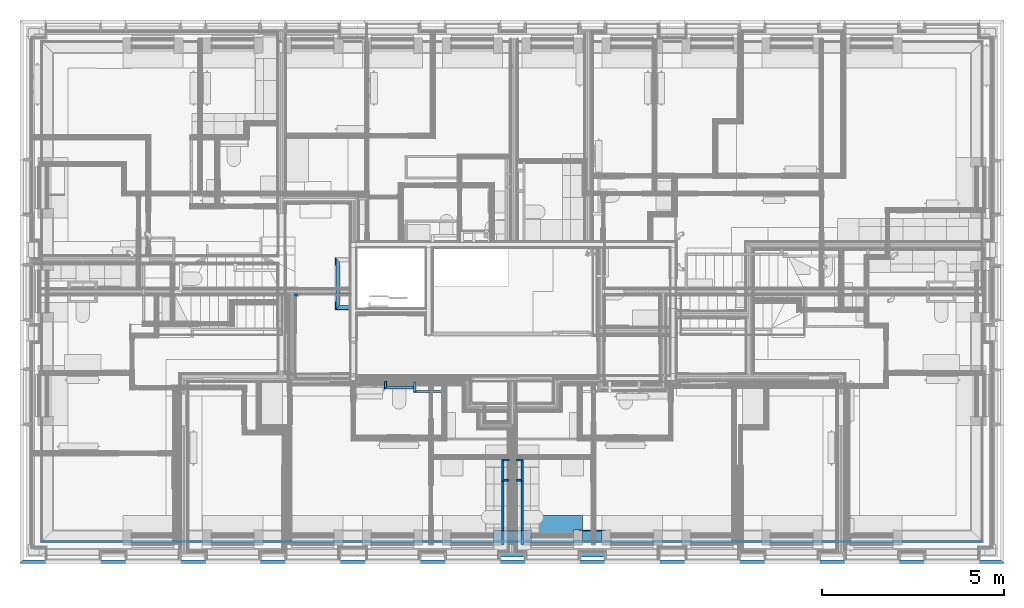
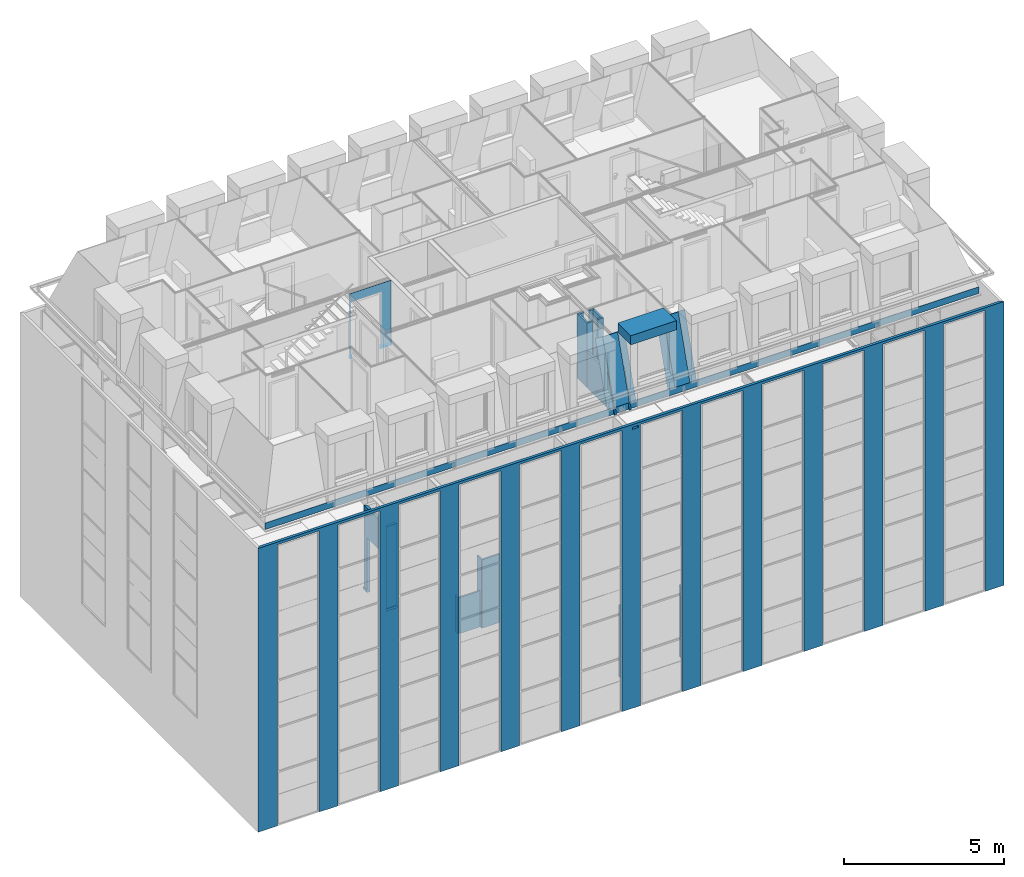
# One storey, part 2 of 169: 26 walls, 16 openings.
"""IFC2X3 building model written with IfcOpenShell, lengths in metres."""

from ifc_helpers import new_model, entity, si_unit, converted_unit, derived_unit, money_unit, direction, frame, frame_2d, origin_with_axes, place, context, subcontext, project, spatial, polyline, rectangle, outline, extrude, clip, halfspace, bounded_halfspace, material, layer, layer_set, layer_usage, type_object, element, save


model = new_model("IFC2X3")

# Units and contexts
model_context = context("Model", 3, precision=1e-05, world=origin_with_axes(), true_north=direction((0.0, 1.0)))
body_context = subcontext(model_context, "Body", "Model", "MODEL_VIEW", scale=1.0)
ifc_project = project(units=[si_unit("LENGTHUNIT", "METRE"), si_unit("AREAUNIT", "SQUARE_METRE"), si_unit("VOLUMEUNIT", "CUBIC_METRE"), si_unit("ABSORBEDDOSEUNIT", "GRAY"), si_unit("AMOUNTOFSUBSTANCEUNIT", "MOLE"), si_unit("DOSEEQUIVALENTUNIT", "SIEVERT"), si_unit("ELECTRICCAPACITANCEUNIT", "FARAD"), si_unit("ELECTRICCHARGEUNIT", "COULOMB"), si_unit("ELECTRICCONDUCTANCEUNIT", "SIEMENS"), si_unit("ELECTRICCURRENTUNIT", "AMPERE"), si_unit("ELECTRICRESISTANCEUNIT", "OHM"), si_unit("ELECTRICVOLTAGEUNIT", "VOLT"), si_unit("ENERGYUNIT", "JOULE"), si_unit("FORCEUNIT", "NEWTON"), si_unit("FREQUENCYUNIT", "HERTZ"), si_unit("ILLUMINANCEUNIT", "LUX"), si_unit("INDUCTANCEUNIT", "HENRY"), si_unit("LUMINOUSFLUXUNIT", "LUMEN"), si_unit("LUMINOUSINTENSITYUNIT", "CANDELA"), si_unit("MAGNETICFLUXDENSITYUNIT", "TESLA"), si_unit("MAGNETICFLUXUNIT", "WEBER"), si_unit("MASSUNIT", "GRAM"), converted_unit("PLANEANGLEUNIT", "degree", entity("IfcReal", 0.0174532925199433), si_unit("PLANEANGLEUNIT", "RADIAN"), dimensions=[0, 0, 0, 0, 0, 0, 0]), si_unit("POWERUNIT", "WATT"), si_unit("PRESSUREUNIT", "PASCAL"), si_unit("RADIOACTIVITYUNIT", "BECQUEREL"), si_unit("SOLIDANGLEUNIT", "STERADIAN"), si_unit("THERMODYNAMICTEMPERATUREUNIT", "KELVIN"), si_unit("TIMEUNIT", "SECOND"), derived_unit("ACCELERATIONUNIT", [(si_unit("LENGTHUNIT", "METRE"), 1), (si_unit("TIMEUNIT", "SECOND"), -2)]), derived_unit("ANGULARVELOCITYUNIT", [(converted_unit("PLANEANGLEUNIT", "degree", entity("IfcReal", 0.0174532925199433), si_unit("PLANEANGLEUNIT", "RADIAN"), dimensions=[0, 0, 0, 0, 0, 0, 0]), 1), (si_unit("TIMEUNIT", "SECOND"), -1)]), derived_unit("CURVATUREUNIT", [(converted_unit("PLANEANGLEUNIT", "degree", entity("IfcReal", 0.0174532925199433), si_unit("PLANEANGLEUNIT", "RADIAN"), dimensions=[0, 0, 0, 0, 0, 0, 0]), 1), (si_unit("LENGTHUNIT", "METRE"), -1)]), derived_unit("DYNAMICVISCOSITYUNIT", [(si_unit("PRESSUREUNIT", "PASCAL"), 1), (si_unit("TIMEUNIT", "SECOND"), 1)]), derived_unit("HEATFLUXDENSITYUNIT", [(si_unit("POWERUNIT", "WATT"), 1), (si_unit("LENGTHUNIT", "METRE"), -2)]), derived_unit("HEATINGVALUEUNIT", [(si_unit("ENERGYUNIT", "JOULE"), 1), (si_unit("MASSUNIT", "GRAM"), -1)]), derived_unit("INTEGERCOUNTRATEUNIT", [(si_unit("TIMEUNIT", "SECOND"), -1)]), derived_unit("IONCONCENTRATIONUNIT", [(si_unit("MASSUNIT", "GRAM"), 1), (si_unit("VOLUMEUNIT", "CUBIC_METRE"), -1)]), derived_unit("ISOTHERMALMOISTURECAPACITYUNIT", [(si_unit("VOLUMEUNIT", "CUBIC_METRE"), 1), (si_unit("MASSUNIT", "GRAM"), -1)]), derived_unit("KINEMATICVISCOSITYUNIT", [(si_unit("AREAUNIT", "SQUARE_METRE"), 1), (si_unit("TIMEUNIT", "SECOND"), -1)]), derived_unit("LINEARFORCEUNIT", [(si_unit("FORCEUNIT", "NEWTON"), 1), (si_unit("LENGTHUNIT", "METRE"), -1)]), derived_unit("LINEARMOMENTUNIT", [(si_unit("FORCEUNIT", "NEWTON"), 1), (si_unit("LENGTHUNIT", "METRE"), -1)]), derived_unit("LINEARSTIFFNESSUNIT", [(si_unit("FORCEUNIT", "NEWTON"), 1), (si_unit("LENGTHUNIT", "METRE"), -1)]), derived_unit("LINEARVELOCITYUNIT", [(si_unit("LENGTHUNIT", "METRE"), 1), (si_unit("TIMEUNIT", "SECOND"), -1)]), derived_unit("LUMINOUSINTENSITYDISTRIBUTIONUNIT", [(si_unit("LUMINOUSINTENSITYUNIT", "CANDELA"), 1), (si_unit("LUMINOUSFLUXUNIT", "LUMEN"), -1)]), derived_unit("MASSDENSITYUNIT", [(si_unit("MASSUNIT", "GRAM"), 1), (si_unit("VOLUMEUNIT", "CUBIC_METRE"), -1)]), derived_unit("MASSFLOWRATEUNIT", [(si_unit("MASSUNIT", "GRAM"), 1), (si_unit("TIMEUNIT", "SECOND"), -1)]), derived_unit("MASSPERLENGTHUNIT", [(si_unit("MASSUNIT", "GRAM"), 1), (si_unit("LENGTHUNIT", "METRE"), -1)]), derived_unit("MODULUSOFELASTICITYUNIT", [(si_unit("FORCEUNIT", "NEWTON"), 1), (si_unit("AREAUNIT", "SQUARE_METRE"), -1)]), derived_unit("MODULUSOFLINEARSUBGRADEREACTIONUNIT", [(si_unit("FORCEUNIT", "NEWTON"), 1), (si_unit("LENGTHUNIT", "METRE"), -2)]), derived_unit("MODULUSOFROTATIONALSUBGRADEREACTIONUNIT", [(si_unit("FORCEUNIT", "NEWTON"), 1), (si_unit("LENGTHUNIT", "METRE"), 1)]), derived_unit("MODULUSOFSUBGRADEREACTIONUNIT", [(si_unit("FORCEUNIT", "NEWTON"), 1), (si_unit("VOLUMEUNIT", "CUBIC_METRE"), -1)]), derived_unit("MOISTUREDIFFUSIVITYUNIT", [(si_unit("VOLUMEUNIT", "CUBIC_METRE"), 1), (si_unit("TIMEUNIT", "SECOND"), -1)]), derived_unit("MOLECULARWEIGHTUNIT", [(si_unit("MASSUNIT", "GRAM"), 1), (si_unit("AMOUNTOFSUBSTANCEUNIT", "MOLE"), -1)]), derived_unit("PLANARFORCEUNIT", [(si_unit("FORCEUNIT", "NEWTON"), 1), (si_unit("LENGTHUNIT", "METRE"), -2)]), derived_unit("ROTATIONALFREQUENCYUNIT", [(si_unit("TIMEUNIT", "SECOND"), -1)]), derived_unit("ROTATIONALMASSUNIT", [(si_unit("MASSUNIT", "GRAM"), 1), (si_unit("LENGTHUNIT", "METRE"), 2)]), derived_unit("ROTATIONALSTIFFNESSUNIT", [(si_unit("FORCEUNIT", "NEWTON"), 1), (si_unit("LENGTHUNIT", "METRE"), 1), (converted_unit("PLANEANGLEUNIT", "degree", entity("IfcReal", 0.0174532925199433), si_unit("PLANEANGLEUNIT", "RADIAN"), dimensions=[0, 0, 0, 0, 0, 0, 0]), -1)]), derived_unit("SECTIONAREAINTEGRALUNIT", [(si_unit("LENGTHUNIT", "METRE"), 5)]), derived_unit("SECTIONMODULUSUNIT", [(si_unit("LENGTHUNIT", "METRE"), 3)]), derived_unit("SHEARMODULUSUNIT", [(si_unit("FORCEUNIT", "NEWTON"), 1), (si_unit("AREAUNIT", "SQUARE_METRE"), -1)]), derived_unit("SOUNDPOWERUNIT", [(si_unit("ENERGYUNIT", "JOULE"), 1), (si_unit("TIMEUNIT", "SECOND"), -1)]), derived_unit("SPECIFICHEATCAPACITYUNIT", [(si_unit("FORCEUNIT", "NEWTON"), 1), (si_unit("MASSUNIT", "GRAM"), -1), (si_unit("THERMODYNAMICTEMPERATUREUNIT", "KELVIN"), -1)]), derived_unit("TEMPERATUREGRADIENTUNIT", [(si_unit("THERMODYNAMICTEMPERATUREUNIT", "KELVIN"), 1), (si_unit("LENGTHUNIT", "METRE"), -1)]), derived_unit("THERMALADMITTANCEUNIT", [(si_unit("POWERUNIT", "WATT"), 1), (si_unit("AREAUNIT", "SQUARE_METRE"), -1), (si_unit("THERMODYNAMICTEMPERATUREUNIT", "KELVIN"), -1)]), derived_unit("THERMALCONDUCTANCEUNIT", [(si_unit("POWERUNIT", "WATT"), 1), (si_unit("LENGTHUNIT", "METRE"), -1), (si_unit("THERMODYNAMICTEMPERATUREUNIT", "KELVIN"), -1)]), derived_unit("THERMALEXPANSIONCOEFFICIENTUNIT", [(si_unit("THERMODYNAMICTEMPERATUREUNIT", "KELVIN"), -1)]), derived_unit("THERMALRESISTANCEUNIT", [(si_unit("AREAUNIT", "SQUARE_METRE"), 1), (si_unit("POWERUNIT", "WATT"), -1)]), derived_unit("THERMALTRANSMITTANCEUNIT", [(si_unit("POWERUNIT", "WATT"), 1), (si_unit("AREAUNIT", "SQUARE_METRE"), -1), (si_unit("THERMODYNAMICTEMPERATUREUNIT", "KELVIN"), -1)]), derived_unit("TORQUEUNIT", [(si_unit("FORCEUNIT", "NEWTON"), 1), (si_unit("LENGTHUNIT", "METRE"), 1)]), derived_unit("VAPORPERMEABILITYUNIT", [(si_unit("MASSUNIT", "GRAM"), 1), (si_unit("TIMEUNIT", "SECOND"), -1)]), derived_unit("VOLUMETRICFLOWRATEUNIT", [(si_unit("VOLUMEUNIT", "CUBIC_METRE"), 1), (si_unit("TIMEUNIT", "SECOND"), -1)]), derived_unit("WARPINGCONSTANTUNIT", [(si_unit("LENGTHUNIT", "METRE"), 6)]), derived_unit("WARPINGMOMENTUNIT", [(si_unit("FORCEUNIT", "NEWTON"), 1), (si_unit("LENGTHUNIT", "METRE"), 2)]), money_unit("GBP")], contexts=[model_context])

# Site, building, storey
site_placement = place(None, origin_with_axes())
site = spatial("IfcSite", under=ifc_project, at=site_placement, Name="Site", CompositionType="ELEMENT")
building_placement = place(site_placement, origin_with_axes())
building = spatial("IfcBuilding", under=site, at=building_placement, Name="Building01", CompositionType="ELEMENT")
storey_placement = place(building_placement, frame((0.0, 0.0, 5.15), z_axis=(0.0, 0.0, 1.0), x_axis=(1.0, 0.0, 0.0)))
storey = spatial("IfcBuildingStorey", under=building, at=storey_placement, Name="1F", CompositionType="ELEMENT", Elevation=5.15)

# Wall, openings
ifc_material_1 = material(Name="A_BSUK_WallsExternal_Brick")
ifc_layer_1 = layer(ifc_material_1, 0.1, ventilated=False)
ifc_layer_set_1 = layer_set([ifc_layer_1])
ifc_layer_usage_1 = layer_usage(ifc_layer_set_1, "AXIS2", "POSITIVE", 0.0)
wall_type_1 = type_object("IfcWallType", Name="A-Walls-ExternalBrick", PredefinedType="NOTDEFINED")
wall_1_placement = place(storey_placement, frame((0.0, 0.0, -1.18), z_axis=(0.0, 0.0, 1.0), x_axis=(1.0, 0.0, 0.0)))
wall_1 = element("IfcWallStandardCase", 1, at=wall_1_placement, inside=storey, type_object=wall_type_1, material=ifc_layer_usage_1, Name="A-Walls-ExternalBrick", ObjectType="A-Walls-ExternalBrick", context=body_context, shape_type="SweptSolid", body=[
    extrude(outline(polyline([(26.88, 0.1), (0.1, 0.1), (0.0, 0.0), (26.98, 0.0), (26.88, 0.1)])), origin_with_axes(), (0.0, 0.0, 1.0), 10.850238),
])
opening_1_placement = place(wall_1_placement, frame((13.538416, 0.0, 10.664949), z_axis=(0.0, 0.0, 1.0), x_axis=(1.0, 0.0, 0.0)))
element("IfcOpeningElement", 2, at=opening_1_placement, cuts=wall_1, Name="Opening", ObjectType="Opening", context=body_context, shape_type="SweptSolid", body=[
    extrude(rectangle(XDim=0.075389, YDim=0.220658, at=frame_2d((-0.110329, 0.037695), x_axis=(0.0, -1.0))), frame((0.0, 0.0, 0.0), z_axis=(0.0, 1.0, 0.0), x_axis=(-1.0, 0.0, 0.0)), (0.0, 0.0, 1.0), 0.1),
])
opening_2_placement = place(wall_1_placement, frame((22.6, 0.0, 0.0), z_axis=(0.0, 0.0, 1.0), x_axis=(1.0, 0.0, 0.0)))
element("IfcOpeningElement", 3, at=opening_2_placement, cuts=wall_1, Name="Opening", ObjectType="Opening", context=body_context, shape_type="SweptSolid", body=[
    extrude(rectangle(XDim=1.52, YDim=10.75, at=frame_2d((-0.76, 5.375), x_axis=(-1.0, 0.0))), frame((0.0, 0.0, 0.0), z_axis=(0.0, 1.0, 0.0), x_axis=(-1.0, 0.0, 0.0)), (0.0, 0.0, 1.0), 0.1),
])
opening_3_placement = place(wall_1_placement, frame((20.41, 0.0, 0.0), z_axis=(0.0, 0.0, 1.0), x_axis=(1.0, 0.0, 0.0)))
element("IfcOpeningElement", 4, at=opening_3_placement, cuts=wall_1, Name="Opening", ObjectType="Opening", context=body_context, shape_type="SweptSolid", body=[
    extrude(rectangle(XDim=1.52, YDim=10.75, at=frame_2d((-0.76, 5.375), x_axis=(-1.0, 0.0))), frame((0.0, 0.0, 0.0), z_axis=(0.0, 1.0, 0.0), x_axis=(-1.0, 0.0, 0.0)), (0.0, 0.0, 1.0), 0.1),
])
opening_4_placement = place(wall_1_placement, frame((18.22, 0.0, 0.0), z_axis=(0.0, 0.0, 1.0), x_axis=(1.0, 0.0, 0.0)))
element("IfcOpeningElement", 5, at=opening_4_placement, cuts=wall_1, Name="Opening", ObjectType="Opening", context=body_context, shape_type="SweptSolid", body=[
    extrude(rectangle(XDim=1.52, YDim=10.75, at=frame_2d((-0.76, 5.375), x_axis=(-1.0, 0.0))), frame((0.0, 0.0, 0.0), z_axis=(0.0, 1.0, 0.0), x_axis=(-1.0, 0.0, 0.0)), (0.0, 0.0, 1.0), 0.1),
])
opening_5_placement = place(wall_1_placement, frame((16.03, 0.0, 0.0), z_axis=(0.0, 0.0, 1.0), x_axis=(1.0, 0.0, 0.0)))
element("IfcOpeningElement", 6, at=opening_5_placement, cuts=wall_1, Name="Opening", ObjectType="Opening", context=body_context, shape_type="SweptSolid", body=[
    extrude(rectangle(XDim=1.52, YDim=10.75, at=frame_2d((-0.76, 5.375), x_axis=(-1.0, 0.0))), frame((0.0, 0.0, 0.0), z_axis=(0.0, 1.0, 0.0), x_axis=(-1.0, 0.0, 0.0)), (0.0, 0.0, 1.0), 0.1),
])
opening_6_placement = place(wall_1_placement, frame((13.84, 0.0, 0.0), z_axis=(0.0, 0.0, 1.0), x_axis=(1.0, 0.0, 0.0)))
element("IfcOpeningElement", 7, at=opening_6_placement, cuts=wall_1, Name="Opening", ObjectType="Opening", context=body_context, shape_type="SweptSolid", body=[
    extrude(rectangle(XDim=1.52, YDim=10.75, at=frame_2d((-0.76, 5.375), x_axis=(-1.0, 0.0))), frame((0.0, 0.0, 0.0), z_axis=(0.0, 1.0, 0.0), x_axis=(-1.0, 0.0, 0.0)), (0.0, 0.0, 1.0), 0.1),
])
opening_7_placement = place(wall_1_placement, frame((11.65, 0.0, 0.0), z_axis=(0.0, 0.0, 1.0), x_axis=(1.0, 0.0, 0.0)))
element("IfcOpeningElement", 8, at=opening_7_placement, cuts=wall_1, Name="Opening", ObjectType="Opening", context=body_context, shape_type="SweptSolid", body=[
    extrude(rectangle(XDim=1.52, YDim=10.75, at=frame_2d((-0.76, 5.375), x_axis=(-1.0, 0.0))), frame((0.0, 0.0, 0.0), z_axis=(0.0, 1.0, 0.0), x_axis=(-1.0, 0.0, 0.0)), (0.0, 0.0, 1.0), 0.1),
])
opening_8_placement = place(wall_1_placement, frame((9.46, 0.0, 0.0), z_axis=(0.0, 0.0, 1.0), x_axis=(1.0, 0.0, 0.0)))
element("IfcOpeningElement", 9, at=opening_8_placement, cuts=wall_1, Name="Opening", ObjectType="Opening", context=body_context, shape_type="SweptSolid", body=[
    extrude(rectangle(XDim=1.52, YDim=10.75, at=frame_2d((-0.76, 5.375), x_axis=(-1.0, 0.0))), frame((0.0, 0.0, 0.0), z_axis=(0.0, 1.0, 0.0), x_axis=(-1.0, 0.0, 0.0)), (0.0, 0.0, 1.0), 0.1),
])
opening_9_placement = place(wall_1_placement, frame((24.79, 0.0, 0.0), z_axis=(0.0, 0.0, 1.0), x_axis=(1.0, 0.0, 0.0)))
element("IfcOpeningElement", 10, at=opening_9_placement, cuts=wall_1, Name="Opening", ObjectType="Opening", context=body_context, shape_type="SweptSolid", body=[
    extrude(rectangle(XDim=1.52, YDim=10.75, at=frame_2d((-0.76, 5.375), x_axis=(-1.0, 0.0))), frame((0.0, 0.0, 0.0), z_axis=(0.0, 1.0, 0.0), x_axis=(-1.0, 0.0, 0.0)), (0.0, 0.0, 1.0), 0.1),
])
opening_10_placement = place(wall_1_placement, frame((7.27, 0.0, 0.0), z_axis=(0.0, 0.0, 1.0), x_axis=(1.0, 0.0, 0.0)))
element("IfcOpeningElement", 11, at=opening_10_placement, cuts=wall_1, Name="Opening", ObjectType="Opening", context=body_context, shape_type="SweptSolid", body=[
    extrude(rectangle(XDim=1.52, YDim=10.75, at=frame_2d((-0.76, 5.375), x_axis=(-1.0, 0.0))), frame((0.0, 0.0, 0.0), z_axis=(0.0, 1.0, 0.0), x_axis=(-1.0, 0.0, 0.0)), (0.0, 0.0, 1.0), 0.1),
])
opening_11_placement = place(wall_1_placement, frame((5.08, 0.0, 0.0), z_axis=(0.0, 0.0, 1.0), x_axis=(1.0, 0.0, 0.0)))
element("IfcOpeningElement", 12, at=opening_11_placement, cuts=wall_1, Name="Opening", ObjectType="Opening", context=body_context, shape_type="SweptSolid", body=[
    extrude(rectangle(XDim=1.52, YDim=10.75, at=frame_2d((-0.76, 5.375), x_axis=(-1.0, 0.0))), frame((0.0, 0.0, 0.0), z_axis=(0.0, 1.0, 0.0), x_axis=(-1.0, 0.0, 0.0)), (0.0, 0.0, 1.0), 0.1),
])
opening_12_placement = place(wall_1_placement, frame((2.89, 0.0, 0.0), z_axis=(0.0, 0.0, 1.0), x_axis=(1.0, 0.0, 0.0)))
element("IfcOpeningElement", 13, at=opening_12_placement, cuts=wall_1, Name="Opening", ObjectType="Opening", context=body_context, shape_type="SweptSolid", body=[
    extrude(rectangle(XDim=1.52, YDim=10.75, at=frame_2d((-0.76, 5.375), x_axis=(-1.0, 0.0))), frame((0.0, 0.0, 0.0), z_axis=(0.0, 1.0, 0.0), x_axis=(-1.0, 0.0, 0.0)), (0.0, 0.0, 1.0), 0.1),
])
opening_13_placement = place(wall_1_placement, frame((0.7, 0.0, 0.0), z_axis=(0.0, 0.0, 1.0), x_axis=(1.0, 0.0, 0.0)))
element("IfcOpeningElement", 14, at=opening_13_placement, cuts=wall_1, Name="Opening", ObjectType="Opening", context=body_context, shape_type="SweptSolid", body=[
    extrude(rectangle(XDim=1.52, YDim=10.75, at=frame_2d((-0.76, 5.375), x_axis=(-1.0, 0.0))), frame((0.0, 0.0, 0.0), z_axis=(0.0, 1.0, 0.0), x_axis=(-1.0, 0.0, 0.0)), (0.0, 0.0, 1.0), 0.1),
])

# Walls
ifc_material_2 = material(Name="A_BSUK_WallsExternal_Block")
ifc_layer_2 = layer(ifc_material_2, 0.1, ventilated=False)
ifc_layer_set_2 = layer_set([ifc_layer_2])
ifc_layer_usage_2 = layer_usage(ifc_layer_set_2, "AXIS2", "POSITIVE", 0.0)
wall_type_2 = type_object("IfcWallType", Name="A-Walls-ExternalBlock", PredefinedType="NOTDEFINED")
for number, where, z_axis, x_axis, name in (
    (15, (13.817, 0.27, 0.0), (0.0, 0.0, 1.0), (-1.0, 0.0, 0.0), "A-Walls-ExternalBlock"),
    (16, (16.007, 0.27, 0.0), (0.0, 0.0, 1.0), (-1.0, 0.0, 0.0), "A-Walls-ExternalBlock"),
):
    element("IfcWallStandardCase", number, at=place(storey_placement, frame(where, z_axis=z_axis, x_axis=x_axis)), inside=storey, type_object=wall_type_2, material=ifc_layer_usage_2, Name=name, ObjectType="A-Walls-ExternalBlock", context=body_context, shape_type="SweptSolid", body=[
        extrude(rectangle(XDim=0.624, YDim=0.1, at=frame_2d((0.312, 0.05), x_axis=(-1.0, 0.0))), origin_with_axes(), (0.0, 0.0, 1.0), 2.74),
    ])
ifc_material_3 = material(Name="A_BSUK_WallsInternal")
ifc_layer_3 = layer(ifc_material_3, 0.015, ventilated=False)
ifc_layer_set_3 = layer_set([ifc_layer_3])
ifc_layer_usage_3 = layer_usage(ifc_layer_set_3, "AXIS2", "POSITIVE", 0.0)
wall_type_3 = type_object("IfcWallType", Name="A-Walls-Internal", PredefinedType="NOTDEFINED")
wall_2_placement = place(storey_placement, frame((0.5938, 0.5788, 9.83), z_axis=(0.0, 0.0, 1.0), x_axis=(1.0, 0.0, 0.0)))
element("IfcWallStandardCase", 17, at=wall_2_placement, inside=storey, type_object=wall_type_3, material=ifc_layer_usage_3, Name="7C", ObjectType="A-Walls-Internal", context=body_context, shape_type="SweptSolid", body=[
    extrude(rectangle(XDim=25.8074, YDim=0.015, at=frame_2d((12.9037, 0.0075), x_axis=(-1.0, 0.0))), origin_with_axes(), (0.0, 0.0, 1.0), 0.25),
])
wall_3_placement = place(storey_placement, frame((0.6088, 0.5938, 9.83), z_axis=(0.0, 0.0, 1.0), x_axis=(1.0, 0.0, 0.0)))
element("IfcWallStandardCase", 18, at=wall_3_placement, inside=storey, type_object=wall_type_3, material=ifc_layer_usage_3, Name="7C", ObjectType="A-Walls-Internal", context=body_context, shape_type="SweptSolid", body=[
    extrude(rectangle(XDim=25.7774, YDim=0.015, at=frame_2d((12.8887, 0.0075), x_axis=(-1.0, 0.0))), origin_with_axes(), (0.0, 0.0, 1.0), 0.25),
])
ifc_material_4 = material(Name="A_BSUK_Walls_Timber")
ifc_layer_4 = layer(ifc_material_4, 0.015, ventilated=False)
ifc_material_5 = material(Name="A_BSUK_OpeningsClearance")
ifc_layer_5 = layer(ifc_material_5, 0.05, ventilated=False)
ifc_layer_set_4 = layer_set([ifc_layer_4, ifc_layer_5])
ifc_layer_usage_4 = layer_usage(ifc_layer_set_4, "AXIS2", "POSITIVE", 0.0)
wall_type_4 = type_object("IfcWallType", Name="SHE_A-Walls_Type05c_PreWallShell_65mm", PredefinedType="NOTDEFINED")
wall_4_placement = place(storey_placement, frame((10.057536, 4.845, 0.0), z_axis=(0.0, 0.0, 1.0), x_axis=(0.0, -1.0, 0.0)))
element("IfcWallStandardCase", 19, at=wall_4_placement, inside=storey, type_object=wall_type_4, material=ifc_layer_usage_4, Name="5C", ObjectType="SHE_A-Walls_Type05c_PreWallShell_65mm", context=body_context, shape_type="SweptSolid", body=[
    extrude(outline(polyline([(0.065, -0.065), (0.0, 0.0), (-0.15, 0.0), (-0.15, -0.05), (-0.12, -0.05), (-0.12, -0.065), (0.065, -0.065)])), origin_with_axes(), (0.0, 0.0, 1.0), 1.375),
])
wall_5_placement = place(storey_placement, frame((10.792536, 4.845, 0.0), z_axis=(0.0, 0.0, 1.0), x_axis=(1.0, 0.0, 0.0)))
element("IfcWallStandardCase", 20, at=wall_5_placement, inside=storey, type_object=wall_type_4, material=ifc_layer_usage_4, Name="5C", ObjectType="SHE_A-Walls_Type05c_PreWallShell_65mm", context=body_context, shape_type="SweptSolid", body=[
    extrude(outline(polyline([(0.0, -0.065), (0.0, 0.0), (-0.735, 0.0), (-0.8, -0.065), (0.0, -0.065)])), origin_with_axes(), (0.0, 0.0, 1.0), 1.375),
])
wall_6_placement = place(storey_placement, frame((10.857536, 4.695, 0.0), z_axis=(0.0, 0.0, 1.0), x_axis=(0.0, -1.0, 0.0)))
element("IfcWallStandardCase", 21, at=wall_6_placement, inside=storey, type_object=wall_type_4, material=ifc_layer_usage_4, Name="5C", ObjectType="SHE_A-Walls_Type05c_PreWallShell_65mm", context=body_context, shape_type="SweptSolid", body=[
    extrude(outline(polyline([(0.015, -0.065), (0.015, -0.05), (0.0, -0.05), (0.0, 0.0), (-0.285, 0.0), (-0.285, -0.065), (0.015, -0.065)])), origin_with_axes(), (0.0, 0.0, 1.0), 2.615),
])
wall_7_placement = place(storey_placement, frame((11.592536, 4.745, 0.0), z_axis=(0.0, 0.0, 1.0), x_axis=(1.0, 0.0, 0.0)))
element("IfcWallStandardCase", 22, at=wall_7_placement, inside=storey, type_object=wall_type_4, material=ifc_layer_usage_4, Name="5C", ObjectType="SHE_A-Walls_Type05c_PreWallShell_65mm", context=body_context, shape_type="SweptSolid", body=[
    extrude(outline(polyline([(0.0, -0.065), (0.0, 0.0), (-0.735, 0.0), (-0.735, -0.05), (-0.785, -0.05), (-0.785, -0.065), (0.0, -0.065)])), origin_with_axes(), (0.0, 0.0, 1.0), 2.615),
])
wall_8_placement = place(storey_placement, frame((13.734998, 2.264668, 9.83), z_axis=(0.0, 0.0, 1.0), x_axis=(0.0, 1.0, 0.0)))
element("IfcWallStandardCase", 23, at=wall_8_placement, inside=storey, type_object=wall_type_4, material=ifc_layer_usage_4, Name="5C", ObjectType="SHE_A-Walls_Type05c_PreWallShell_65mm", context=body_context, shape_type="SweptSolid", body=[
    extrude(outline(polyline([(0.540094, -0.05), (0.540094, 0.0), (0.0, 0.0), (0.0, -0.05), (-0.015, -0.065), (0.605094, -0.065), (0.590094, -0.05), (0.540094, -0.05)])), origin_with_axes(), (0.0, 0.0, 1.0), 2.468),
])
wall_9_placement = place(storey_placement, frame((13.6, 2.314668, 9.83), z_axis=(0.0, 0.0, 1.0), x_axis=(1.0, 0.0, 0.0)))
element("IfcWallStandardCase", 24, at=wall_9_placement, inside=storey, type_object=wall_type_4, material=ifc_layer_usage_4, Name="5C", ObjectType="SHE_A-Walls_Type05c_PreWallShell_65mm", context=body_context, shape_type="SweptSolid", body=[
    extrude(outline(polyline([(0.135, -0.05), (0.135, 0.0), (0.0, 0.0), (0.0, -0.065), (0.199998, -0.065), (0.184998, -0.05), (0.135, -0.05)])), origin_with_axes(), (0.0, 0.0, 1.0), 2.468),
])
ifc_layer_set_5 = layer_set([ifc_layer_5, ifc_layer_4])
ifc_layer_usage_5 = layer_usage(ifc_layer_set_5, "AXIS2", "POSITIVE", 0.0)
wall_10_placement = place(storey_placement, frame((13.734998, 2.249668, 9.83), z_axis=(0.0, 0.0, 1.0), x_axis=(0.0, -1.0, 0.0)))
element("IfcWallStandardCase", 25, at=wall_10_placement, inside=storey, type_object=wall_type_4, material=ifc_layer_usage_5, Name="5C", ObjectType="SHE_A-Walls_Type05c_PreWallShell_65mm", context=body_context, shape_type="Clipping", body=[
    clip(extrude(outline(polyline([(1.736326, 0.065), (-0.015, 0.065), (0.0, 0.05), (0.0, 0.0), (1.736326, 0.0), (1.736326, 0.065)])), origin_with_axes(), (0.0, 0.0, 1.0), 1.375), halfspace(frame((1.570521, 0.0, 0.510293), z_axis=(-0.95105652, 0.0, -0.30901699), x_axis=(0.0, -1.0, 0.0)), True)),
])
wall_11_placement = place(storey_placement, frame((13.6, 2.804761, 9.83), z_axis=(0.0, 0.0, 1.0), x_axis=(1.0, 0.0, 0.0)))
element("IfcWallStandardCase", 26, at=wall_11_placement, inside=storey, type_object=wall_type_4, material=ifc_layer_usage_5, Name="5C", ObjectType="SHE_A-Walls_Type05c_PreWallShell_65mm", context=body_context, shape_type="SweptSolid", body=[
    extrude(outline(polyline([(0.184998, 0.05), (0.199998, 0.065), (0.015, 0.065), (0.015, 0.05), (0.0, 0.05), (0.0, 0.0), (0.185, 0.0), (0.185, 0.05), (0.184998, 0.05)])), origin_with_axes(), (0.0, 0.0, 1.0), 2.468),
])
wall_12_placement = place(storey_placement, frame((13.265002, 2.264668, 9.83), z_axis=(0.0, 0.0, 1.0), x_axis=(0.0, 1.0, 0.0)))
element("IfcWallStandardCase", 27, at=wall_12_placement, inside=storey, type_object=wall_type_4, material=ifc_layer_usage_5, Name="5C", ObjectType="SHE_A-Walls_Type05c_PreWallShell_65mm", context=body_context, shape_type="SweptSolid", body=[
    extrude(outline(polyline([(0.605094, 0.065), (-0.015, 0.065), (0.0, 0.05), (0.0, 0.0), (0.540094, 0.0), (0.605094, 0.065)])), origin_with_axes(), (0.0, 0.0, 1.0), 2.468),
])
wall_13_placement = place(storey_placement, frame((13.395002, 2.314668, 9.83), z_axis=(0.0, 0.0, 1.0), x_axis=(-1.0, 0.0, 0.0)))
element("IfcWallStandardCase", 28, at=wall_13_placement, inside=storey, type_object=wall_type_4, material=ifc_layer_usage_5, Name="5C", ObjectType="SHE_A-Walls_Type05c_PreWallShell_65mm", context=body_context, shape_type="SweptSolid", body=[
    extrude(outline(polyline([(0.13, 0.05), (0.18, 0.05), (0.195, 0.065), (-0.004998, 0.065), (-0.004998, 0.05), (0.0, 0.05), (0.0, 0.0), (0.13, 0.0), (0.13, 0.05)])), origin_with_axes(), (0.0, 0.0, 1.0), 2.468),
])
wall_14_placement = place(storey_placement, frame((13.265002, 2.249668, 9.83), z_axis=(0.0, 0.0, 1.0), x_axis=(0.0, -1.0, 0.0)))
element("IfcWallStandardCase", 29, at=wall_14_placement, inside=storey, type_object=wall_type_4, material=ifc_layer_usage_4, Name="5C", ObjectType="SHE_A-Walls_Type05c_PreWallShell_65mm", context=body_context, shape_type="Clipping", body=[
    clip(extrude(outline(polyline([(1.736326, 0.0), (0.0, 0.0), (0.0, -0.05), (-0.015, -0.065), (1.736326, -0.065), (1.736326, 0.0)])), origin_with_axes(), (0.0, 0.0, 1.0), 1.375), halfspace(frame((1.570521, 0.0, 0.510293), z_axis=(-0.95105652, 0.0, -0.30901699), x_axis=(0.0, -1.0, 0.0)), True)),
])
wall_15_placement = place(storey_placement, frame((13.415, 2.804761, 9.83), z_axis=(0.0, 0.0, 1.0), x_axis=(-1.0, 0.0, 0.0)))
element("IfcWallStandardCase", 30, at=wall_15_placement, inside=storey, type_object=wall_type_4, material=ifc_layer_usage_4, Name="5C", ObjectType="SHE_A-Walls_Type05c_PreWallShell_65mm", context=body_context, shape_type="SweptSolid", body=[
    extrude(outline(polyline([(0.199998, -0.05), (0.199998, 0.0), (0.0, 0.0), (0.0, -0.065), (0.214998, -0.065), (0.199998, -0.05)])), origin_with_axes(), (0.0, 0.0, 1.0), 2.468),
])

# Wall, opening
ifc_layer_set_6 = layer_set([ifc_layer_4])
ifc_layer_usage_6 = layer_usage(ifc_layer_set_6, "AXIS2", "POSITIVE", 0.0)
wall_type_5 = type_object("IfcWallType", Name="default", PredefinedType="NOTDEFINED")
wall_16_placement = place(storey_placement, frame((9.06, 7.349939, 9.845), z_axis=(0.0, 0.0, 1.0), x_axis=(-1.0, 0.0, 0.0)))
wall_16 = element("IfcWallStandardCase", 31, at=wall_16_placement, inside=storey, type_object=wall_type_5, material=ifc_layer_usage_6, Name="default", ObjectType="default", context=body_context, shape_type="SweptSolid", body=[
    extrude(outline(polyline([(1.485, 0.015), (0.015, 0.015), (0.0, 0.0), (1.5, 0.0), (1.485, 0.015)])), origin_with_axes(), (0.0, 0.0, 1.0), 0.1),
])
opening_14_placement = place(wall_16_placement, frame((0.374, 0.0, -0.015), z_axis=(0.0, 0.0, 1.0), x_axis=(1.0, 0.0, 0.0)))
element("IfcOpeningElement", 32, at=opening_14_placement, cuts=wall_16, Name="Opening", ObjectType="Opening", context=body_context, shape_type="SweptSolid", body=[
    extrude(rectangle(XDim=2.142, YDim=1.084, at=frame_2d((-0.542, 1.071), x_axis=(0.0, -1.0))), frame((0.0, 0.0, 0.0), z_axis=(0.0, 1.0, 0.0), x_axis=(-1.0, 0.0, 0.0)), (0.0, 0.0, 1.0), 0.015),
])

ifc_material_6 = material(Name="A_BSUK_WallInternal_Finishes_Plasterboard")
ifc_layer_6 = layer(ifc_material_6, 0.015, ventilated=False)
ifc_layer_set_7 = layer_set([ifc_layer_6])
ifc_layer_usage_7 = layer_usage(ifc_layer_set_7, "AXIS2", "POSITIVE", 0.0)
wall_17_placement = place(storey_placement, frame((9.075, 7.364939, 9.83), z_axis=(0.0, 0.0, 1.0), x_axis=(-1.0, 0.0, 0.0)))
wall_17 = element("IfcWallStandardCase", 33, at=wall_17_placement, inside=storey, type_object=wall_type_5, material=ifc_layer_usage_7, Name="default", ObjectType="default", context=body_context, shape_type="SweptSolid", body=[
    extrude(outline(polyline([(1.53, 0.015), (0.015, 0.015), (0.0, 0.0), (1.53, 0.0), (1.53, 0.015)])), origin_with_axes(), (0.0, 0.0, 1.0), 2.468),
])
opening_15_placement = place(wall_17_placement, frame((0.389, 0.0, 0.0), z_axis=(0.0, 0.0, 1.0), x_axis=(1.0, 0.0, 0.0)))
element("IfcOpeningElement", 34, at=opening_15_placement, cuts=wall_17, Name="Opening", ObjectType="Opening", context=body_context, shape_type="SweptSolid", body=[
    extrude(rectangle(XDim=2.142, YDim=1.084, at=frame_2d((-0.542, 1.071), x_axis=(0.0, -1.0))), frame((0.0, 0.0, 0.0), z_axis=(0.0, 1.0, 0.0), x_axis=(-1.0, 0.0, 0.0)), (0.0, 0.0, 1.0), 0.015),
])

# Wall
ifc_material_7 = material(Name="Air Cavity")
ifc_layer_7 = layer(ifc_material_7, 0.072, ventilated=False)
ifc_layer_set_8 = layer_set([ifc_layer_6, ifc_layer_7, ifc_layer_6, ifc_layer_4])
ifc_layer_usage_8 = layer_usage(ifc_layer_set_8, "AXIS2", "POSITIVE", 0.0)
wall_type_6 = type_object("IfcWallType", Name="SHE_A-Walls_Type04c_RiserWall_102mm_tall", PredefinedType="NOTDEFINED")
wall_18_placement = place(storey_placement, frame((9.06, 6.968405, 0.015), z_axis=(0.0, 0.0, 1.0), x_axis=(-1.0, 0.0, 0.0)))
element("IfcWallStandardCase", 35, at=wall_18_placement, inside=storey, type_object=wall_type_6, material=ifc_layer_usage_8, Name="4C", ObjectType="SHE_A-Walls_Type04c_RiserWall_102mm_tall", context=body_context, shape_type="Clipping", body=[
    clip(clip(extrude(outline(polyline([(0.417, 0.015), (0.0, 0.015), (0.0, -0.015), (0.015, -0.015), (0.015, -0.102), (0.3, -0.102), (0.417, 0.015)])), frame((0.0, 0.0, -0.015), z_axis=(0.0, 0.0, 1.0), x_axis=(1.0, 0.0, 0.0)), (0.0, 0.0, 1.0), 3.24), bounded_halfspace(frame((0.0, 0.0, 0.1), z_axis=(0.0, 0.0, 1.0), x_axis=(1.0, 0.0, 0.0)), False, frame((0.0, 0.0, 0.1), z_axis=(0.0, 0.0, 1.0), x_axis=(1.0, 0.0, 0.0)), polyline([(0.417, 0.015), (0.0, 0.015), (0.0, 0.0), (0.402, 0.0), (0.417, 0.015)]))), bounded_halfspace(frame((0.0, 0.0, 0.0), z_axis=(0.0, 0.0, -1.0), x_axis=(-1.0, 0.0, 0.0)), False, frame((0.0, 0.0, 0.0), z_axis=(0.0, 0.0, -1.0), x_axis=(-1.0, 0.0, 0.0)), polyline([(-0.402, 0.0), (0.0, 0.0), (0.0, 0.015), (-0.417, 0.015), (-0.402, 0.0)]))),
])

# Wall, opening
wall_19_placement = place(storey_placement, frame((8.658, 6.968405, 0.015), z_axis=(0.0, 0.0, 1.0), x_axis=(0.0, 1.0, 0.0)))
wall_19 = element("IfcWallStandardCase", 36, at=wall_19_placement, inside=storey, type_object=wall_type_6, material=ifc_layer_usage_8, Name="4C", ObjectType="SHE_A-Walls_Type04c_RiserWall_102mm_tall", context=body_context, shape_type="Clipping", body=[
    clip(clip(extrude(outline(polyline([(1.389, -0.015), (1.389, 0.0), (1.404, 0.0), (1.419, 0.015), (-0.015, 0.015), (0.102, -0.102), (1.302, -0.102), (1.389, -0.015)])), frame((0.0, 0.0, -0.015), z_axis=(0.0, 0.0, 1.0), x_axis=(1.0, 0.0, 0.0)), (0.0, 0.0, 1.0), 3.24), bounded_halfspace(frame((0.0, 0.0, 0.1), z_axis=(0.0, 0.0, 1.0), x_axis=(1.0, 0.0, 0.0)), False, frame((0.0, 0.0, 0.1), z_axis=(0.0, 0.0, 1.0), x_axis=(1.0, 0.0, 0.0)), polyline([(1.419, 0.015), (-0.015, 0.015), (0.0, 0.0), (1.404, 0.0), (1.419, 0.015)]))), bounded_halfspace(frame((0.0, 0.0, 0.0), z_axis=(0.0, 0.0, -1.0), x_axis=(-1.0, 0.0, 0.0)), False, frame((0.0, 0.0, 0.0), z_axis=(0.0, 0.0, -1.0), x_axis=(-1.0, 0.0, 0.0)), polyline([(-1.404, 0.0), (0.0, 0.0), (0.015, 0.015), (-1.419, 0.015), (-1.404, 0.0)]))),
])
opening_16_placement = place(wall_19_placement, frame((0.21, -0.102, -0.015), z_axis=(0.0, 0.0, 1.0), x_axis=(1.0, 0.0, 0.0)))
element("IfcOpeningElement", 37, at=opening_16_placement, cuts=wall_19, Name="Opening", ObjectType="Opening", context=body_context, shape_type="SweptSolid", body=[
    extrude(rectangle(XDim=0.984, YDim=2.1, at=frame_2d((-0.492, 1.05), x_axis=(1.0, 0.0))), frame((0.0, 0.0, 0.0), z_axis=(0.0, 1.0, 0.0), x_axis=(-1.0, 0.0, 0.0)), (0.0, 0.0, 1.0), 0.117),
])

# Walls
ifc_material_8 = material(Name="A_BSUK_Roofs")
wall_type_7 = type_object("IfcWallType", Name="A-Walls-ExternalBlock", PredefinedType="NOTDEFINED")
wall_20_placement = place(storey_placement, frame((13.770024, 1.31, 12.679998), z_axis=(1.0, 0.0, 0.0), x_axis=(0.0, -1.0, 0.0)))
element("IfcWall", 38, at=wall_20_placement, inside=storey, type_object=wall_type_7, material=ifc_material_8, Name="7C", ObjectType="A-Walls-ExternalBlock", context=body_context, shape_type="SweptSolid", body=[
    extrude(rectangle(XDim=0.81, YDim=0.349998, at=frame_2d((0.405, 0.174999), x_axis=(1.0, 0.0))), origin_with_axes(), (0.0, 0.0, 1.0), 1.649951),
])
wall_type_8 = type_object("IfcWallType", Name="A-Walls-Internal", PredefinedType="NOTDEFINED")
for number, where, z_axis, x_axis, name in (
    (39, (13.229976, 0.5788, 10.08), (0.0, 0.30901699, 0.95105652), (1.0, 0.0, 0.0), "7C"),
    (40, (15.419976, 0.5788, 10.08), (0.0, 0.30901699, 0.95105652), (1.0, 0.0, 0.0), "7C"),
):
    element("IfcWall", number, at=place(storey_placement, frame(where, z_axis=z_axis, x_axis=x_axis)), inside=storey, type_object=wall_type_8, material=ifc_material_3, Name=name, ObjectType="A-Walls-Internal", context=body_context, shape_type="SweptSolid", body=[
        extrude(rectangle(XDim=0.540049, YDim=0.015, at=frame_2d((0.270024, 0.0075), x_axis=(-1.0, 0.0))), origin_with_axes(), (0.0, 0.0, 1.0), 2.373987),
    ])
for number, where, z_axis, x_axis, name in (
    (41, (15.419976, 0.594428, 10.079557), (0.0, 0.30901699, 0.95105652), (1.0, 0.0, 0.0), "7C"),
    (42, (13.229976, 0.594428, 10.079557), (0.0, 0.30901699, 0.95105652), (1.0, 0.0, 0.0), "7C"),
):
    element("IfcWall", number, at=place(storey_placement, frame(where, z_axis=z_axis, x_axis=x_axis)), inside=storey, type_object=wall_type_8, material=ifc_material_3, Name=name, ObjectType="A-Walls-Internal", context=body_context, shape_type="SweptSolid", body=[
        extrude(outline(polyline([(0.790049, 0.015), (-0.25, 0.015), (0.0, 0.0), (0.540049, 0.0), (0.790049, 0.015)])), origin_with_axes(), (0.0, 0.0, 1.0), 2.373987),
    ])

save(model, "model.ifc")
